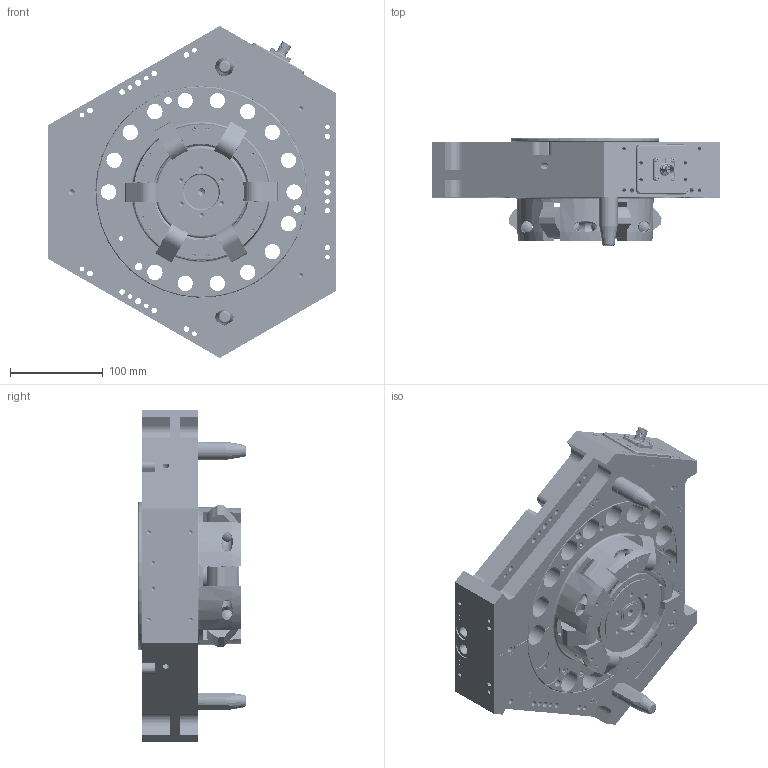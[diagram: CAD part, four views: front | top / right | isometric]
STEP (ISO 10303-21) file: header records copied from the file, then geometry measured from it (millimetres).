
FILE_DESCRIPTION (( 'STEP AP214' ), '1' );
FILE_NAME ('1900474A REV02.STEP', '2020-08-31T12:35:51', ( '' ), ( '' ), 'SwSTEP 2.0', 'SolidWorks 2020', '' );
FILE_SCHEMA (( 'AUTOMOTIVE_DESIGN' ));
Length unit declared in the file: millimetre
Products named in the file (72): 49045_DIN 912 M8 x 20 --- 20N; 1800706P; 1502-C09N; 1800705P; 1407-P56N; 2000076P; 1304-P44N; 1405-P91N; 1900297P; 49024; 49102; 1407-P54N; 1800405A; 1407-P53N; 91500-p1007; 49144; 1800402P_91217A170; 1407-P43N; 1502-C03N; 1406-D82A; 1304-P45N; 1407-P40N; 49497; 48438; 1502-C04N; 2000193M; 1407-P42N; 85943-P1021; 1407-P57N; 49445; 1501-D60N; 1502-C06N; 1800404A; 1405-P93N; 1900298P; 1501-E83N; 1700442P; 0108-B05N; 1700444P; 1800407M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
Assembly tree (170 placements, depth 5):
  1900474A REV02
    1501-E83N
    85551-P1008
    1800404A
      1501-D60N
      1800405A
        1406-D82A
          1405-P90N
          1405-P91N  x2
          1405-P92N
          1405-P93N
          1407-P40N  x2
          1407-P42N  x2
          1405-P95N  x4
          1407-P41N  x2
          1407-P53N  x3
          1407-P55N  x2
          1407-P54N  x3
          1407-P39N  x2
          1407-P56N
          1700442P  x6
          1407-P57N
          1700444P  x2
          1407-P43N  x4
          1800707P  x2
          1800705P  x2
          1800706P  x2
          1304-P35N  x2
          1304-P44N
          1304-P45N
          1304-P33N  x2
        1800406M
        1405-P91N  x2
        49497  x4
        49438  x2
      1800407M
      1900297P
      1900584A_SUBASSY PS MOD
        1900298P
      1406-C49N
      0601-P65N  x4
      96504-P1019  x4
      49144  x4
      88503-P1084  x4
      49024  x6
      49438  x6
      49445  x4
    1502-D01A
      1502-D02N
      1502-C03N
      1502-C09N  x6
      0810-P34N
      99508-P1022
      91500-p1007
      85943-P1021
      2000076P
      91500-P1038  x2
      48438  x7
      49102  x6
      49986_91595A755  x6
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Bounding box: 310 x 116 x 357.96 mm (x, y, z)
Volume: 4315198.1 mm3; surface area: 817088.6 mm2
Topology: 197 solids, 197 shells, 9037 faces, 22832 edges, 14950 vertices
Faces by surface type: plane 5872, bspline 1345, cylinder 1290, cone 388, torus 120, sphere 22
Full cylindrical faces by diameter (mm): 0.61 x35, 0.762 x4, 0.8 x3, 0.889 x6, 1.016 x12, 1.27 x5, 1.5 x6, 1.549 x6, 1.6 x18, 1.605 x6, 2 x4, 2.3 x4, 2.34 x8, 2.35 x8, 2.5 x11, 3 x33, 3.2 x4, 3.3 x10, 3.5 x15, 3.53 x16, 3.986 x6, 4 x16, 4.04 x8, 4.075 x2, 4.2 x35, 4.5 x9, 5 x50, 5.16 x6, 5.2 x12, 5.25 x6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
Entity records: 227388 total; most frequent: CARTESIAN_POINT 87629, ORIENTED_EDGE 26572, DIRECTION 22921, EDGE_CURVE 13286, VERTEX_POINT 9091, LINE 9073, VECTOR 9073, EDGE_LOOP 7227
